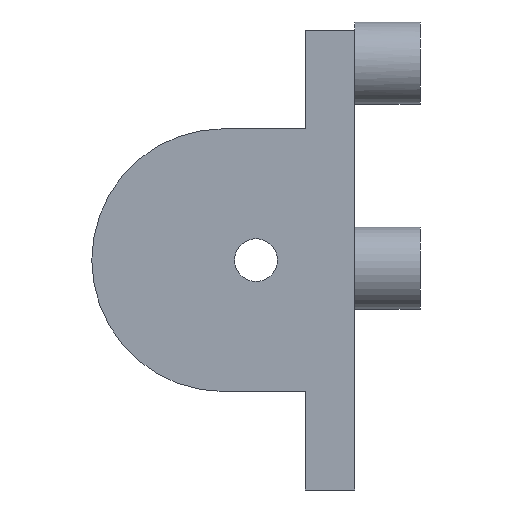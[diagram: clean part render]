
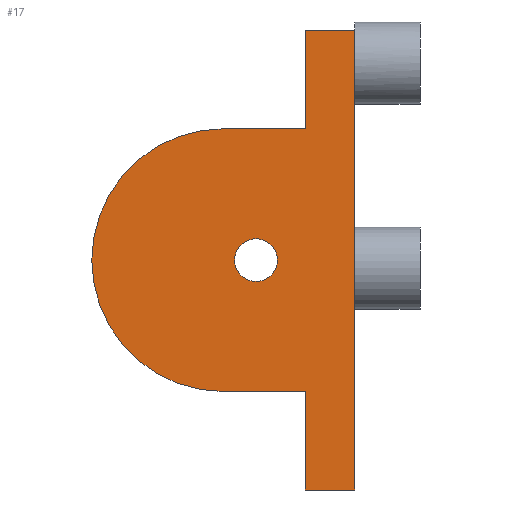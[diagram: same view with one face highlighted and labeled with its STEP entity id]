
A CAD part, left-side view. The second image highlights one B-rep face of the part: STEP entity #17.
In plain terms, the highlighted planar face has unit normal (-1, 0, 0).
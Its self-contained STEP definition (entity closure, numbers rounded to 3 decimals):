
#17 = ADVANCED_FACE('',(#18,#245),#32,.F.);
#18 = FACE_BOUND('',#19,.F.);
#19 = EDGE_LOOP('',(#20,#55,#83,#111,#139,#167,#196,#224));
#20 = ORIENTED_EDGE('',*,*,#21,.F.);
#21 = EDGE_CURVE('',#22,#24,#26,.T.);
#22 = VERTEX_POINT('',#23);
#23 = CARTESIAN_POINT('',(-14.5,-6.,14.));
#24 = VERTEX_POINT('',#25);
#25 = CARTESIAN_POINT('',(-14.5,-3.,14.));
#26 = SURFACE_CURVE('',#27,(#31,#43),.PCURVE_S1.);
#27 = LINE('',#28,#29);
#28 = CARTESIAN_POINT('',(-14.5,-6.,14.));
#29 = VECTOR('',#30,1.);
#30 = DIRECTION('',(-0.,1.,0.));
#31 = PCURVE('',#32,#37);
#32 = PLANE('',#33);
#33 = AXIS2_PLACEMENT_3D('',#34,#35,#36);
#34 = CARTESIAN_POINT('',(-14.5,-6.,-14.));
#35 = DIRECTION('',(1.,0.,-0.));
#36 = DIRECTION('',(0.,0.,1.));
#37 = DEFINITIONAL_REPRESENTATION('',(#38),#42);
#38 = LINE('',#39,#40);
#39 = CARTESIAN_POINT('',(28.,0.));
#40 = VECTOR('',#41,1.);
#41 = DIRECTION('',(0.,-1.));
#42 = ( GEOMETRIC_REPRESENTATION_CONTEXT(2) 
PARAMETRIC_REPRESENTATION_CONTEXT() REPRESENTATION_CONTEXT('2D SPACE',''
  ) );
#43 = PCURVE('',#44,#49);
#44 = PLANE('',#45);
#45 = AXIS2_PLACEMENT_3D('',#46,#47,#48);
#46 = CARTESIAN_POINT('',(-14.5,-6.,14.));
#47 = DIRECTION('',(0.,0.,1.));
#48 = DIRECTION('',(1.,0.,-0.));
#49 = DEFINITIONAL_REPRESENTATION('',(#50),#54);
#50 = LINE('',#51,#52);
#51 = CARTESIAN_POINT('',(0.,0.));
#52 = VECTOR('',#53,1.);
#53 = DIRECTION('',(0.,1.));
#54 = ( GEOMETRIC_REPRESENTATION_CONTEXT(2) 
PARAMETRIC_REPRESENTATION_CONTEXT() REPRESENTATION_CONTEXT('2D SPACE',''
  ) );
#55 = ORIENTED_EDGE('',*,*,#56,.F.);
#56 = EDGE_CURVE('',#57,#22,#59,.T.);
#57 = VERTEX_POINT('',#58);
#58 = CARTESIAN_POINT('',(-14.5,-6.,-14.));
#59 = SURFACE_CURVE('',#60,(#64,#71),.PCURVE_S1.);
#60 = LINE('',#61,#62);
#61 = CARTESIAN_POINT('',(-14.5,-6.,-14.));
#62 = VECTOR('',#63,1.);
#63 = DIRECTION('',(0.,0.,1.));
#64 = PCURVE('',#32,#65);
#65 = DEFINITIONAL_REPRESENTATION('',(#66),#70);
#66 = LINE('',#67,#68);
#67 = CARTESIAN_POINT('',(0.,0.));
#68 = VECTOR('',#69,1.);
#69 = DIRECTION('',(1.,0.));
#70 = ( GEOMETRIC_REPRESENTATION_CONTEXT(2) 
PARAMETRIC_REPRESENTATION_CONTEXT() REPRESENTATION_CONTEXT('2D SPACE',''
  ) );
#71 = PCURVE('',#72,#77);
#72 = PLANE('',#73);
#73 = AXIS2_PLACEMENT_3D('',#74,#75,#76);
#74 = CARTESIAN_POINT('',(-14.5,-6.,-14.));
#75 = DIRECTION('',(-0.,1.,0.));
#76 = DIRECTION('',(0.,0.,1.));
#77 = DEFINITIONAL_REPRESENTATION('',(#78),#82);
#78 = LINE('',#79,#80);
#79 = CARTESIAN_POINT('',(0.,0.));
#80 = VECTOR('',#81,1.);
#81 = DIRECTION('',(1.,0.));
#82 = ( GEOMETRIC_REPRESENTATION_CONTEXT(2) 
PARAMETRIC_REPRESENTATION_CONTEXT() REPRESENTATION_CONTEXT('2D SPACE',''
  ) );
#83 = ORIENTED_EDGE('',*,*,#84,.T.);
#84 = EDGE_CURVE('',#57,#85,#87,.T.);
#85 = VERTEX_POINT('',#86);
#86 = CARTESIAN_POINT('',(-14.5,-3.,-14.));
#87 = SURFACE_CURVE('',#88,(#92,#99),.PCURVE_S1.);
#88 = LINE('',#89,#90);
#89 = CARTESIAN_POINT('',(-14.5,-6.,-14.));
#90 = VECTOR('',#91,1.);
#91 = DIRECTION('',(-0.,1.,0.));
#92 = PCURVE('',#32,#93);
#93 = DEFINITIONAL_REPRESENTATION('',(#94),#98);
#94 = LINE('',#95,#96);
#95 = CARTESIAN_POINT('',(0.,0.));
#96 = VECTOR('',#97,1.);
#97 = DIRECTION('',(0.,-1.));
#98 = ( GEOMETRIC_REPRESENTATION_CONTEXT(2) 
PARAMETRIC_REPRESENTATION_CONTEXT() REPRESENTATION_CONTEXT('2D SPACE',''
  ) );
#99 = PCURVE('',#100,#105);
#100 = PLANE('',#101);
#101 = AXIS2_PLACEMENT_3D('',#102,#103,#104);
#102 = CARTESIAN_POINT('',(-14.5,-6.,-14.));
#103 = DIRECTION('',(0.,0.,1.));
#104 = DIRECTION('',(1.,0.,-0.));
#105 = DEFINITIONAL_REPRESENTATION('',(#106),#110);
#106 = LINE('',#107,#108);
#107 = CARTESIAN_POINT('',(0.,0.));
#108 = VECTOR('',#109,1.);
#109 = DIRECTION('',(0.,1.));
#110 = ( GEOMETRIC_REPRESENTATION_CONTEXT(2) 
PARAMETRIC_REPRESENTATION_CONTEXT() REPRESENTATION_CONTEXT('2D SPACE',''
  ) );
#111 = ORIENTED_EDGE('',*,*,#112,.T.);
#112 = EDGE_CURVE('',#85,#113,#115,.T.);
#113 = VERTEX_POINT('',#114);
#114 = CARTESIAN_POINT('',(-14.5,-3.,-8.));
#115 = SURFACE_CURVE('',#116,(#120,#127),.PCURVE_S1.);
#116 = LINE('',#117,#118);
#117 = CARTESIAN_POINT('',(-14.5,-3.,-14.));
#118 = VECTOR('',#119,1.);
#119 = DIRECTION('',(0.,0.,1.));
#120 = PCURVE('',#32,#121);
#121 = DEFINITIONAL_REPRESENTATION('',(#122),#126);
#122 = LINE('',#123,#124);
#123 = CARTESIAN_POINT('',(0.,-3.));
#124 = VECTOR('',#125,1.);
#125 = DIRECTION('',(1.,0.));
#126 = ( GEOMETRIC_REPRESENTATION_CONTEXT(2) 
PARAMETRIC_REPRESENTATION_CONTEXT() REPRESENTATION_CONTEXT('2D SPACE',''
  ) );
#127 = PCURVE('',#128,#133);
#128 = PLANE('',#129);
#129 = AXIS2_PLACEMENT_3D('',#130,#131,#132);
#130 = CARTESIAN_POINT('',(-14.5,-3.,-14.));
#131 = DIRECTION('',(-0.,1.,0.));
#132 = DIRECTION('',(0.,0.,1.));
#133 = DEFINITIONAL_REPRESENTATION('',(#134),#138);
#134 = LINE('',#135,#136);
#135 = CARTESIAN_POINT('',(0.,0.));
#136 = VECTOR('',#137,1.);
#137 = DIRECTION('',(1.,0.));
#138 = ( GEOMETRIC_REPRESENTATION_CONTEXT(2) 
PARAMETRIC_REPRESENTATION_CONTEXT() REPRESENTATION_CONTEXT('2D SPACE',''
  ) );
#139 = ORIENTED_EDGE('',*,*,#140,.T.);
#140 = EDGE_CURVE('',#113,#141,#143,.T.);
#141 = VERTEX_POINT('',#142);
#142 = CARTESIAN_POINT('',(-14.5,2.,-8.));
#143 = SURFACE_CURVE('',#144,(#148,#155),.PCURVE_S1.);
#144 = LINE('',#145,#146);
#145 = CARTESIAN_POINT('',(-14.5,-3.01,-8.));
#146 = VECTOR('',#147,1.);
#147 = DIRECTION('',(-0.,1.,0.));
#148 = PCURVE('',#32,#149);
#149 = DEFINITIONAL_REPRESENTATION('',(#150),#154);
#150 = LINE('',#151,#152);
#151 = CARTESIAN_POINT('',(6.,-2.99));
#152 = VECTOR('',#153,1.);
#153 = DIRECTION('',(0.,-1.));
#154 = ( GEOMETRIC_REPRESENTATION_CONTEXT(2) 
PARAMETRIC_REPRESENTATION_CONTEXT() REPRESENTATION_CONTEXT('2D SPACE',''
  ) );
#155 = PCURVE('',#156,#161);
#156 = PLANE('',#157);
#157 = AXIS2_PLACEMENT_3D('',#158,#159,#160);
#158 = CARTESIAN_POINT('',(-14.5,-3.01,-8.));
#159 = DIRECTION('',(0.,0.,1.));
#160 = DIRECTION('',(1.,0.,-0.));
#161 = DEFINITIONAL_REPRESENTATION('',(#162),#166);
#162 = LINE('',#163,#164);
#163 = CARTESIAN_POINT('',(0.,0.));
#164 = VECTOR('',#165,1.);
#165 = DIRECTION('',(0.,1.));
#166 = ( GEOMETRIC_REPRESENTATION_CONTEXT(2) 
PARAMETRIC_REPRESENTATION_CONTEXT() REPRESENTATION_CONTEXT('2D SPACE',''
  ) );
#167 = ORIENTED_EDGE('',*,*,#168,.T.);
#168 = EDGE_CURVE('',#141,#169,#171,.T.);
#169 = VERTEX_POINT('',#170);
#170 = CARTESIAN_POINT('',(-14.5,2.,8.));
#171 = SURFACE_CURVE('',#172,(#177,#184),.PCURVE_S1.);
#172 = CIRCLE('',#173,8.);
#173 = AXIS2_PLACEMENT_3D('',#174,#175,#176);
#174 = CARTESIAN_POINT('',(-14.5,2.,0.));
#175 = DIRECTION('',(1.,0.,0.));
#176 = DIRECTION('',(-0.,0.,1.));
#177 = PCURVE('',#32,#178);
#178 = DEFINITIONAL_REPRESENTATION('',(#179),#183);
#179 = CIRCLE('',#180,8.);
#180 = AXIS2_PLACEMENT_2D('',#181,#182);
#181 = CARTESIAN_POINT('',(14.,-8.));
#182 = DIRECTION('',(1.,0.));
#183 = ( GEOMETRIC_REPRESENTATION_CONTEXT(2) 
PARAMETRIC_REPRESENTATION_CONTEXT() REPRESENTATION_CONTEXT('2D SPACE',''
  ) );
#184 = PCURVE('',#185,#190);
#185 = CYLINDRICAL_SURFACE('',#186,8.);
#186 = AXIS2_PLACEMENT_3D('',#187,#188,#189);
#187 = CARTESIAN_POINT('',(-14.5,2.,0.));
#188 = DIRECTION('',(1.,0.,0.));
#189 = DIRECTION('',(-0.,0.,1.));
#190 = DEFINITIONAL_REPRESENTATION('',(#191),#195);
#191 = LINE('',#192,#193);
#192 = CARTESIAN_POINT('',(0.,0.));
#193 = VECTOR('',#194,1.);
#194 = DIRECTION('',(1.,0.));
#195 = ( GEOMETRIC_REPRESENTATION_CONTEXT(2) 
PARAMETRIC_REPRESENTATION_CONTEXT() REPRESENTATION_CONTEXT('2D SPACE',''
  ) );
#196 = ORIENTED_EDGE('',*,*,#197,.F.);
#197 = EDGE_CURVE('',#198,#169,#200,.T.);
#198 = VERTEX_POINT('',#199);
#199 = CARTESIAN_POINT('',(-14.5,-3.,8.));
#200 = SURFACE_CURVE('',#201,(#205,#212),.PCURVE_S1.);
#201 = LINE('',#202,#203);
#202 = CARTESIAN_POINT('',(-14.5,-3.01,8.));
#203 = VECTOR('',#204,1.);
#204 = DIRECTION('',(-0.,1.,0.));
#205 = PCURVE('',#32,#206);
#206 = DEFINITIONAL_REPRESENTATION('',(#207),#211);
#207 = LINE('',#208,#209);
#208 = CARTESIAN_POINT('',(22.,-2.99));
#209 = VECTOR('',#210,1.);
#210 = DIRECTION('',(0.,-1.));
#211 = ( GEOMETRIC_REPRESENTATION_CONTEXT(2) 
PARAMETRIC_REPRESENTATION_CONTEXT() REPRESENTATION_CONTEXT('2D SPACE',''
  ) );
#212 = PCURVE('',#213,#218);
#213 = PLANE('',#214);
#214 = AXIS2_PLACEMENT_3D('',#215,#216,#217);
#215 = CARTESIAN_POINT('',(-14.5,-3.01,8.));
#216 = DIRECTION('',(0.,0.,1.));
#217 = DIRECTION('',(1.,0.,-0.));
#218 = DEFINITIONAL_REPRESENTATION('',(#219),#223);
#219 = LINE('',#220,#221);
#220 = CARTESIAN_POINT('',(0.,0.));
#221 = VECTOR('',#222,1.);
#222 = DIRECTION('',(0.,1.));
#223 = ( GEOMETRIC_REPRESENTATION_CONTEXT(2) 
PARAMETRIC_REPRESENTATION_CONTEXT() REPRESENTATION_CONTEXT('2D SPACE',''
  ) );
#224 = ORIENTED_EDGE('',*,*,#225,.T.);
#225 = EDGE_CURVE('',#198,#24,#226,.T.);
#226 = SURFACE_CURVE('',#227,(#231,#238),.PCURVE_S1.);
#227 = LINE('',#228,#229);
#228 = CARTESIAN_POINT('',(-14.5,-3.,-14.));
#229 = VECTOR('',#230,1.);
#230 = DIRECTION('',(0.,0.,1.));
#231 = PCURVE('',#32,#232);
#232 = DEFINITIONAL_REPRESENTATION('',(#233),#237);
#233 = LINE('',#234,#235);
#234 = CARTESIAN_POINT('',(0.,-3.));
#235 = VECTOR('',#236,1.);
#236 = DIRECTION('',(1.,0.));
#237 = ( GEOMETRIC_REPRESENTATION_CONTEXT(2) 
PARAMETRIC_REPRESENTATION_CONTEXT() REPRESENTATION_CONTEXT('2D SPACE',''
  ) );
#238 = PCURVE('',#128,#239);
#239 = DEFINITIONAL_REPRESENTATION('',(#240),#244);
#240 = LINE('',#241,#242);
#241 = CARTESIAN_POINT('',(0.,0.));
#242 = VECTOR('',#243,1.);
#243 = DIRECTION('',(1.,0.));
#244 = ( GEOMETRIC_REPRESENTATION_CONTEXT(2) 
PARAMETRIC_REPRESENTATION_CONTEXT() REPRESENTATION_CONTEXT('2D SPACE',''
  ) );
#245 = FACE_BOUND('',#246,.F.);
#246 = EDGE_LOOP('',(#247));
#247 = ORIENTED_EDGE('',*,*,#248,.F.);
#248 = EDGE_CURVE('',#249,#249,#251,.T.);
#249 = VERTEX_POINT('',#250);
#250 = CARTESIAN_POINT('',(-14.5,0.,1.3));
#251 = SURFACE_CURVE('',#252,(#257,#264),.PCURVE_S1.);
#252 = CIRCLE('',#253,1.3);
#253 = AXIS2_PLACEMENT_3D('',#254,#255,#256);
#254 = CARTESIAN_POINT('',(-14.5,0.,0.));
#255 = DIRECTION('',(1.,0.,0.));
#256 = DIRECTION('',(-0.,0.,1.));
#257 = PCURVE('',#32,#258);
#258 = DEFINITIONAL_REPRESENTATION('',(#259),#263);
#259 = CIRCLE('',#260,1.3);
#260 = AXIS2_PLACEMENT_2D('',#261,#262);
#261 = CARTESIAN_POINT('',(14.,-6.));
#262 = DIRECTION('',(1.,0.));
#263 = ( GEOMETRIC_REPRESENTATION_CONTEXT(2) 
PARAMETRIC_REPRESENTATION_CONTEXT() REPRESENTATION_CONTEXT('2D SPACE',''
  ) );
#264 = PCURVE('',#265,#270);
#265 = CYLINDRICAL_SURFACE('',#266,1.3);
#266 = AXIS2_PLACEMENT_3D('',#267,#268,#269);
#267 = CARTESIAN_POINT('',(-15.5,0.,0.));
#268 = DIRECTION('',(1.,0.,0.));
#269 = DIRECTION('',(-0.,0.,1.));
#270 = DEFINITIONAL_REPRESENTATION('',(#271),#275);
#271 = LINE('',#272,#273);
#272 = CARTESIAN_POINT('',(0.,1.));
#273 = VECTOR('',#274,1.);
#274 = DIRECTION('',(1.,0.));
#275 = ( GEOMETRIC_REPRESENTATION_CONTEXT(2) 
PARAMETRIC_REPRESENTATION_CONTEXT() REPRESENTATION_CONTEXT('2D SPACE',''
  ) );
